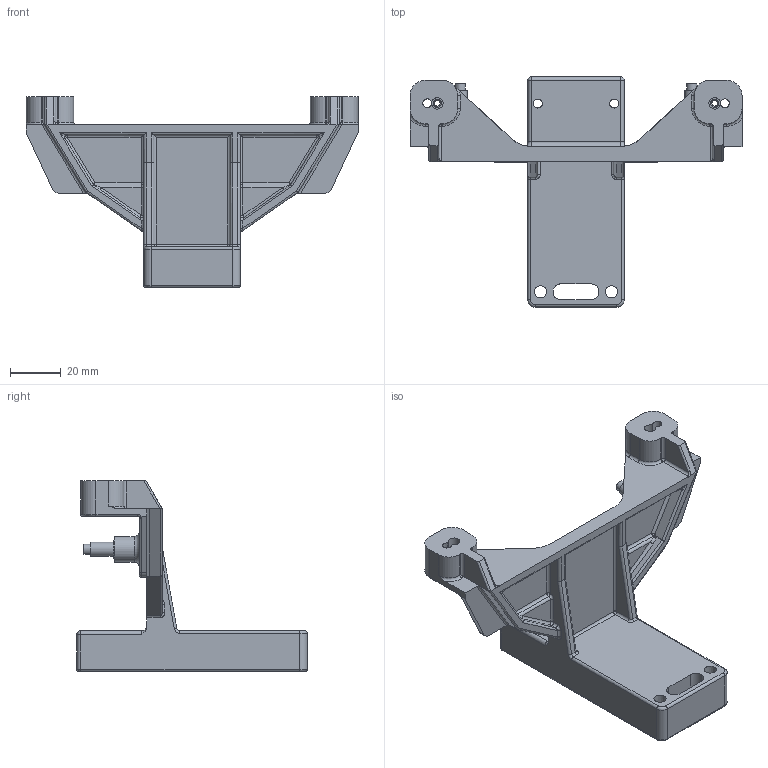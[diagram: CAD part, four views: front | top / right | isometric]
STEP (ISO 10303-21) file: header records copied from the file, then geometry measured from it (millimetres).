
FILE_DESCRIPTION( ( 'Unknown' ), '1' );
FILE_NAME( 'E:/Drawing Files Other/Dave/CDP/Support-Bracket 91mm Pitch/Support-Bracket-91mm-Pitch.stp', 'Unknown', ( 'Unknown' ), ( 'Unknown' ), 'PSStep 15.0.49', 'Unknown', ' ' );
FILE_SCHEMA( ( 'AUTOMOTIVE_DESIGN { 1 0 10303 214 1 1 1 1 }' ) );
Length unit declared in the file: millimetre
Products named in the file (1): 1
Bounding box: 130.5 x 90.5 x 75 mm (x, y, z)
Volume: 55553.6 mm3; surface area: 32569.8 mm2
Topology: 1 solids, 1 shells, 355 faces, 873 edges, 513 vertices
Faces by surface type: cylinder 134, plane 115, torus 38, bspline 28, cone 18, sphere 16, extrusion 6
Full cylindrical faces by diameter (mm): 2.2 x2, 3.5 x2, 4 x2, 5.5 x2, 7 x2, 10 x2
Entity records: 17133 total; most frequent: CARTESIAN_POINT 6211, DIRECTION 1724, ORIENTED_EDGE 1624, EDGE_CURVE 812, AXIS2_PLACEMENT_3D 654, VERTEX_POINT 498, VECTOR 416, EDGE_LOOP 412
